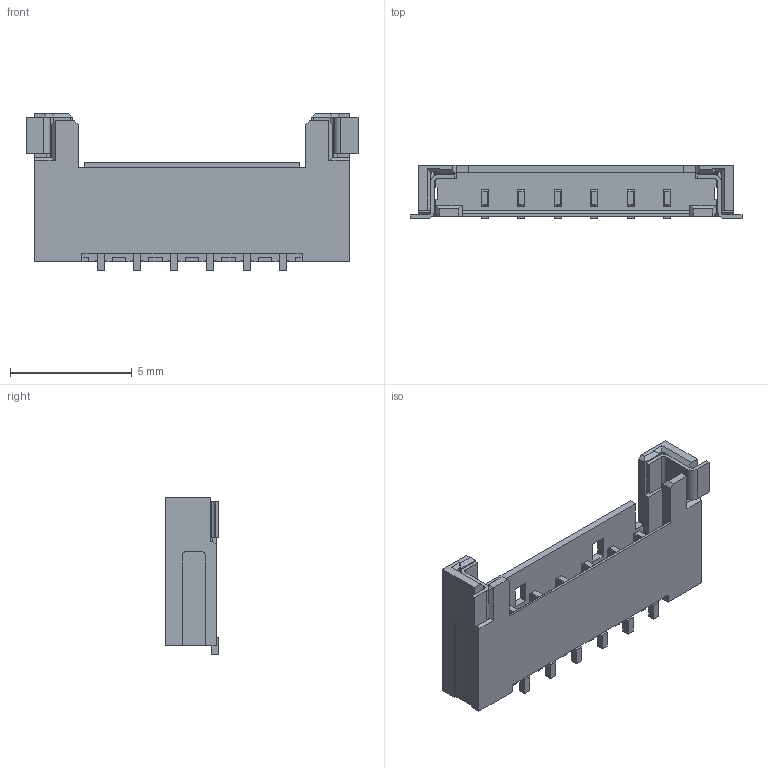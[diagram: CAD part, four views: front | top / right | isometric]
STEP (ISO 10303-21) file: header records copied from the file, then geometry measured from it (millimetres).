
FILE_DESCRIPTION (( 'STEP AP203' ), '1' );
FILE_NAME ('HC-CB1.5-6PWT-05 (1.50 閉情 等齬 拏泂-HCTL).STEP', '2025-11-22T07:42:47', ( '' ), ( '' ), 'SwSTEP 2.0', 'SolidWorks 2025', '' );
FILE_SCHEMA (( 'CONFIG_CONTROL_DESIGN' ));
Length unit declared in the file: millimetre
Products named in the file (1): HC-CB1.5-6PWT-05 (1.50 超薄 单排 卧贴-HCTL)
Bounding box: 13.65 x 2.2 x 6.45 mm (x, y, z)
Volume: 72.4 mm3; surface area: 345.2 mm2
Topology: 1 solids, 1 shells, 331 faces, 904 edges, 582 vertices
Faces by surface type: plane 319, cylinder 12
Entity records: 10281 total; most frequent: CARTESIAN_POINT 1818, ORIENTED_EDGE 1808, DIRECTION 1594, EDGE_CURVE 904, LINE 878, VECTOR 878, VERTEX_POINT 582, AXIS2_PLACEMENT_3D 358
